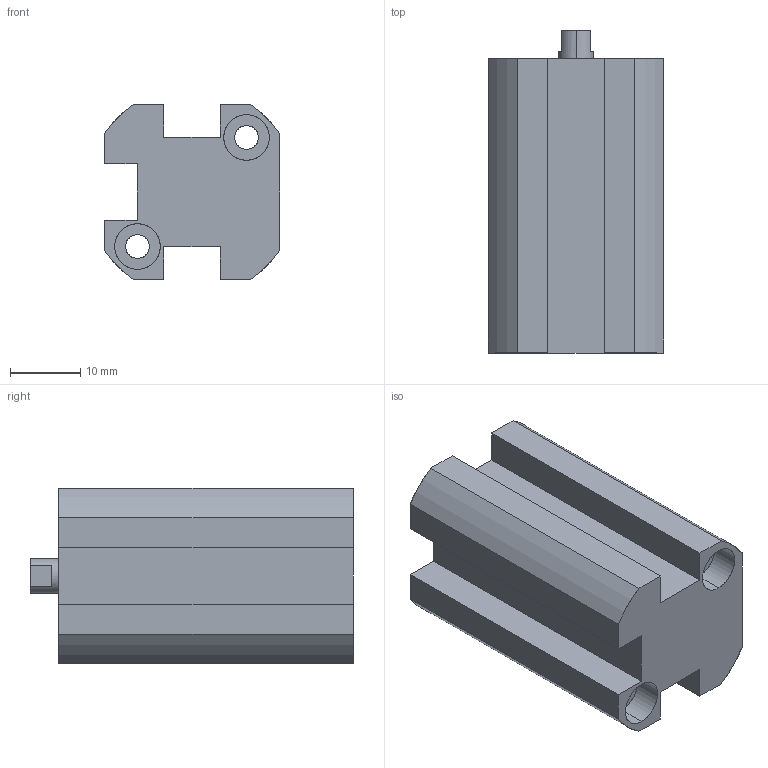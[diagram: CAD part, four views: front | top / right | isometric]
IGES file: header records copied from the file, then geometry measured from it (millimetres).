
Start section: SolidWorks IGES file using analytic representation for surfaces
Global section: file name: C:\Users\Toshiba\Desktop\XG#2-10D-10.IGS; native system: SolidWorks 2014; preprocessor: SolidWorks 2014; author: Toshiba; date: 160524.094545; units: millimetre
Bounding box: 25 x 46 x 25 mm (x, y, z)
Surface area: 7536.4 mm2 (no closed solid volume)
Topology: 0 solids, 0 shells, 76 faces, 1211 edges, 1207 vertices
Faces by surface type: revolution 43, bspline 33
